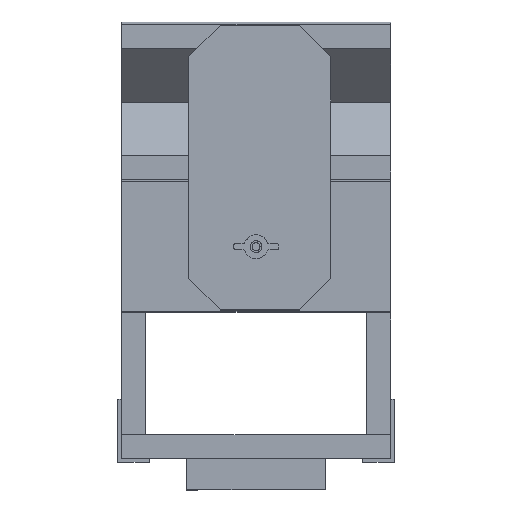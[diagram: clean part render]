
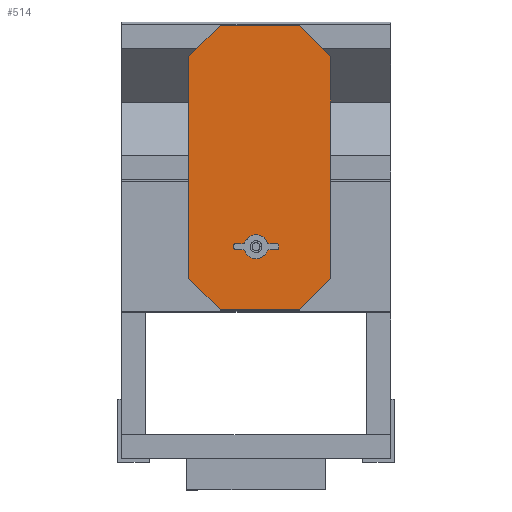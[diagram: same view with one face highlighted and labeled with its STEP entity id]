
A CAD part, top view. The second image highlights one B-rep face of the part: STEP entity #514.
In plain terms, the highlighted free-form (B-spline) face has degree [1, 1] with [2, 2] control points.
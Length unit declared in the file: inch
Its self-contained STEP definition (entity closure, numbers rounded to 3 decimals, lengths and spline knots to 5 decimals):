
#195 = CARTESIAN_POINT ('', (-3.625, 5.9375, 3.63281));
#196 = VERTEX_POINT ('', #195);
#202 = CARTESIAN_POINT ('', (-3.375, 5.9375, 3.63281));
#203 = VERTEX_POINT ('', #202);
#204 = CARTESIAN_POINT ('', (-3.625, 5.9375, 3.63281));
#205 = CARTESIAN_POINT ('', (-3.625, 5.8125, 3.63281));
#206 = CARTESIAN_POINT ('', (-3.5, 5.8125, 3.63281));
#207 = CARTESIAN_POINT ('', (-3.375, 5.8125, 3.63281));
#208 = CARTESIAN_POINT ('', (-3.375, 5.9375, 3.63281));
#209 = (
   BOUNDED_CURVE ()
   B_SPLINE_CURVE (2, (#204, #205, #206, #207, #208), .UNSPECIFIED., .F., .U.)
   B_SPLINE_CURVE_WITH_KNOTS ((3, 2, 3), (180., 270., 360.), .UNSPECIFIED.)
   CURVE ()
   GEOMETRIC_REPRESENTATION_ITEM ()
   RATIONAL_B_SPLINE_CURVE ((1., 0.707, 1., 0.707, 1.))
   REPRESENTATION_ITEM ('')
);
#210 = EDGE_CURVE ('', #196, #203, #209, .T.);
#212 = CARTESIAN_POINT ('', (-3.375, 5.9375, 3.63281));
#213 = CARTESIAN_POINT ('', (-3.375, 6.0625, 3.63281));
#214 = CARTESIAN_POINT ('', (-3.5, 6.0625, 3.63281));
#215 = CARTESIAN_POINT ('', (-3.625, 6.0625, 3.63281));
#216 = CARTESIAN_POINT ('', (-3.625, 5.9375, 3.63281));
#217 = (
   BOUNDED_CURVE ()
   B_SPLINE_CURVE (2, (#212, #213, #214, #215, #216), .UNSPECIFIED., .F., .U.)
   B_SPLINE_CURVE_WITH_KNOTS ((3, 2, 3), (0., 90., 180.), .UNSPECIFIED.)
   CURVE ()
   GEOMETRIC_REPRESENTATION_ITEM ()
   RATIONAL_B_SPLINE_CURVE ((1., 0.707, 1., 0.707, 1.))
   REPRESENTATION_ITEM ('')
);
#218 = EDGE_CURVE ('', #203, #196, #217, .T.);
#320 = CARTESIAN_POINT ('', (-1.13192, 11.9375, 3.63281));
#321 = VERTEX_POINT ('', #320);
#327 = CARTESIAN_POINT ('', (-1.13192, 4.9375, 3.63281));
#328 = VERTEX_POINT ('', #327);
#329 = CARTESIAN_POINT ('', (-1.13192, 11.9375, 3.63281));
#330 = CARTESIAN_POINT ('', (-1.13192, 4.9375, 3.63281));
#331 = B_SPLINE_CURVE_WITH_KNOTS ('', 1, (#329, #330), .UNSPECIFIED., .F., .U., (2, 2), (0., 1.), .UNSPECIFIED.);
#332 = EDGE_CURVE ('', #321, #328, #331, .T.);
#348 = CARTESIAN_POINT ('', (-2.13192, 12.9375, 3.63281));
#349 = VERTEX_POINT ('', #348);
#355 = CARTESIAN_POINT ('', (-2.13192, 12.9375, 3.63281));
#356 = CARTESIAN_POINT ('', (-1.13192, 11.9375, 3.63281));
#357 = B_SPLINE_CURVE_WITH_KNOTS ('', 1, (#355, #356), .UNSPECIFIED., .F., .U., (2, 2), (0., 1.), .UNSPECIFIED.);
#358 = EDGE_CURVE ('', #349, #321, #357, .T.);
#370 = CARTESIAN_POINT ('', (-4.63192, 12.9375, 3.63281));
#371 = VERTEX_POINT ('', #370);
#377 = CARTESIAN_POINT ('', (-4.63192, 12.9375, 3.63281));
#378 = CARTESIAN_POINT ('', (-2.13192, 12.9375, 3.63281));
#379 = B_SPLINE_CURVE_WITH_KNOTS ('', 1, (#377, #378), .UNSPECIFIED., .F., .U., (2, 2), (0., 1.), .UNSPECIFIED.);
#380 = EDGE_CURVE ('', #371, #349, #379, .T.);
#392 = CARTESIAN_POINT ('', (-5.63192, 11.9375, 3.63281));
#393 = VERTEX_POINT ('', #392);
#399 = CARTESIAN_POINT ('', (-4.63192, 12.9375, 3.63281));
#400 = CARTESIAN_POINT ('', (-5.63192, 11.9375, 3.63281));
#401 = B_SPLINE_CURVE_WITH_KNOTS ('', 1, (#399, #400), .UNSPECIFIED., .F., .U., (2, 2), (0., 1.), .UNSPECIFIED.);
#402 = EDGE_CURVE ('', #371, #393, #401, .T.);
#414 = CARTESIAN_POINT ('', (-5.63192, 4.9375, 3.63281));
#415 = VERTEX_POINT ('', #414);
#421 = CARTESIAN_POINT ('', (-5.63192, 4.9375, 3.63281));
#422 = CARTESIAN_POINT ('', (-5.63192, 11.9375, 3.63281));
#423 = B_SPLINE_CURVE_WITH_KNOTS ('', 1, (#421, #422), .UNSPECIFIED., .F., .U., (2, 2), (0., 1.), .UNSPECIFIED.);
#424 = EDGE_CURVE ('', #415, #393, #423, .T.);
#436 = CARTESIAN_POINT ('', (-4.63192, 3.9375, 3.63281));
#437 = VERTEX_POINT ('', #436);
#443 = CARTESIAN_POINT ('', (-4.63192, 3.9375, 3.63281));
#444 = CARTESIAN_POINT ('', (-5.63192, 4.9375, 3.63281));
#445 = B_SPLINE_CURVE_WITH_KNOTS ('', 1, (#443, #444), .UNSPECIFIED., .F., .U., (2, 2), (0., 1.), .UNSPECIFIED.);
#446 = EDGE_CURVE ('', #437, #415, #445, .T.);
#458 = CARTESIAN_POINT ('', (-2.13192, 3.9375, 3.63281));
#459 = VERTEX_POINT ('', #458);
#465 = CARTESIAN_POINT ('', (-2.13192, 3.9375, 3.63281));
#466 = CARTESIAN_POINT ('', (-4.63192, 3.9375, 3.63281));
#467 = B_SPLINE_CURVE_WITH_KNOTS ('', 1, (#465, #466), .UNSPECIFIED., .F., .U., (2, 2), (0., 1.), .UNSPECIFIED.);
#468 = EDGE_CURVE ('', #459, #437, #467, .T.);
#481 = CARTESIAN_POINT ('', (-1.13192, 4.9375, 3.63281));
#482 = CARTESIAN_POINT ('', (-2.13192, 3.9375, 3.63281));
#483 = B_SPLINE_CURVE_WITH_KNOTS ('', 1, (#481, #482), .UNSPECIFIED., .F., .U., (2, 2), (0., 1.), .UNSPECIFIED.);
#484 = EDGE_CURVE ('', #328, #459, #483, .T.);
#495 = ORIENTED_EDGE ('', *, *, #332, .F.);
#496 = ORIENTED_EDGE ('', *, *, #358, .F.);
#497 = ORIENTED_EDGE ('', *, *, #380, .F.);
#498 = ORIENTED_EDGE ('', *, *, #402, .T.);
#499 = ORIENTED_EDGE ('', *, *, #424, .F.);
#500 = ORIENTED_EDGE ('', *, *, #446, .F.);
#501 = ORIENTED_EDGE ('', *, *, #468, .F.);
#502 = ORIENTED_EDGE ('', *, *, #484, .F.);
#503 = EDGE_LOOP ('', (#495, #496, #497, #498, #499, #500, #501, #502));
#504 = FACE_OUTER_BOUND ('', #503, .T.);
#505 = ORIENTED_EDGE ('', *, *, #210, .F.);
#506 = ORIENTED_EDGE ('', *, *, #218, .F.);
#507 = EDGE_LOOP ('', (#505, #506));
#508 = FACE_BOUND ('', #507, .T.);
#509 = CARTESIAN_POINT ('', (-1.13188, 12.93754, 3.63281));
#510 = CARTESIAN_POINT ('', (-1.13188, 3.93746, 3.63281));
#511 = CARTESIAN_POINT ('', (-5.63196, 12.93754, 3.63281));
#512 = CARTESIAN_POINT ('', (-5.63196, 3.93746, 3.63281));
#513 = B_SPLINE_SURFACE_WITH_KNOTS ('', 1, 1, ((#509, #510), (#511, #512)), .UNSPECIFIED., .F., .F., .U., (2, 2), (2, 2), (143.04985, 257.35185), (-241.301, -12.699), .UNSPECIFIED.);
#514 = ADVANCED_FACE ('', (#504, #508), #513, .T.);
